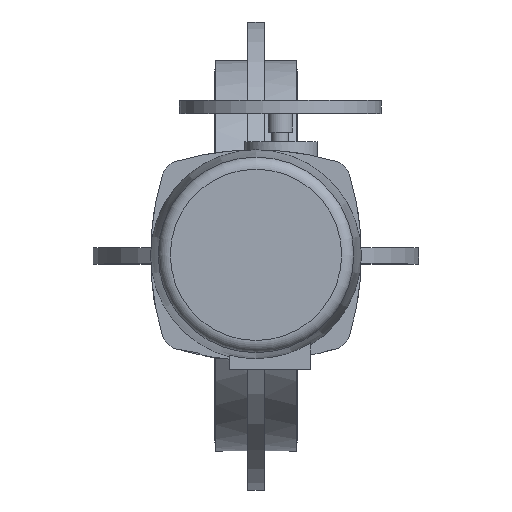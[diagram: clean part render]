
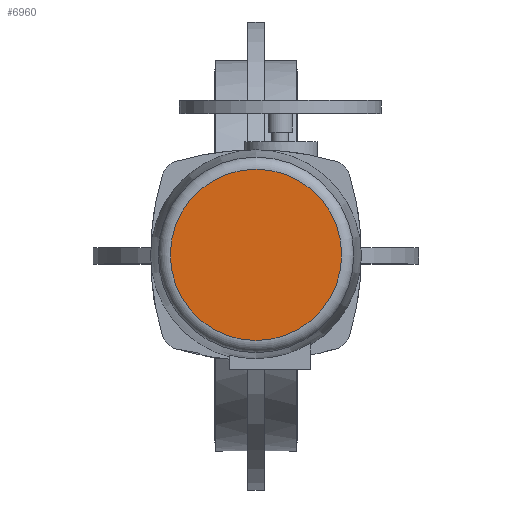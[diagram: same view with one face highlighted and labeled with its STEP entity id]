
A CAD part, top view. The second image highlights one B-rep face of the part: STEP entity #6960.
In plain terms, the highlighted planar face has unit normal (0, 0, 1).
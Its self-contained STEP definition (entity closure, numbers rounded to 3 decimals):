
#6960=ADVANCED_FACE('',(#12548),#12550,.T.);
#12548=FACE_BOUND('',#12549,.T.);
#12549=EDGE_LOOP('',(#16879));
#12550=PLANE('',#12551);
#12551=AXIS2_PLACEMENT_3D('',#12552,#12553,#12554);
#12552=CARTESIAN_POINT('',(0.,0.,800.));
#12553=DIRECTION('',(0.,0.,1.));
#12554=DIRECTION('',(0.,-1.,0.));
#16879=ORIENTED_EDGE('',*,*,#19033,.F.);
#19033=EDGE_CURVE('',#22635,#22635,#22636,.T.);
#22635=VERTEX_POINT('',#32569);
#22636=CIRCLE('',#32570,105.81);
#32569=CARTESIAN_POINT('',(0.,-105.81,800.));
#32570=AXIS2_PLACEMENT_3D('',#32571,#32572,#32573);
#32571=CARTESIAN_POINT('',(0.,0.,800.));
#32572=DIRECTION('',(0.,0.,-1.));
#32573=DIRECTION('',(0.,-1.,0.));
